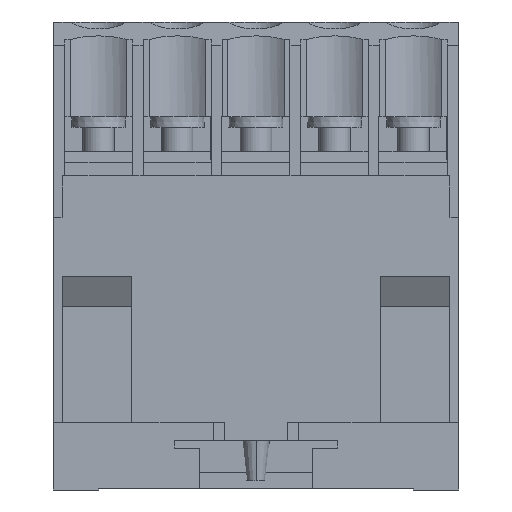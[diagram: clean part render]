
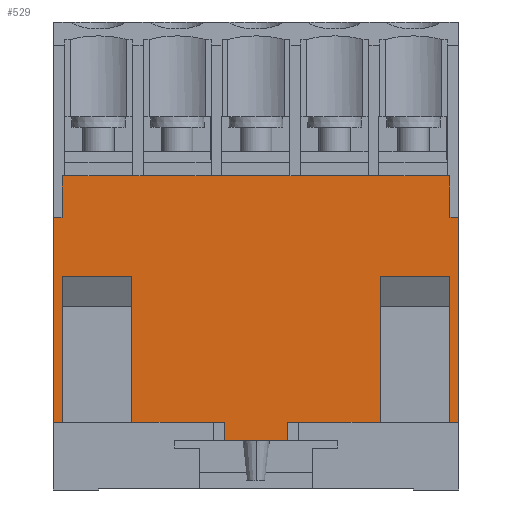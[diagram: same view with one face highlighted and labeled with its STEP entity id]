
A CAD part, front view. The second image highlights one B-rep face of the part: STEP entity #529.
In plain terms, the highlighted planar face has unit normal (0, -1, 0).
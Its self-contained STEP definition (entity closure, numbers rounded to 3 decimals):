
#529 = ADVANCED_FACE( '', ( #1510 ), #1511, .T. );
#1510 = FACE_OUTER_BOUND( '', #2525, .T. );
#1511 = PLANE( '', #2526 );
#2525 = EDGE_LOOP( '', ( #6571, #6572, #6573, #6574, #6575, #6576, #6577, #6578, #6579, #6580, #6581, #6582, #6583, #6584, #6585, #6586, #6587, #6588, #6589, #6590 ) );
#2526 = AXIS2_PLACEMENT_3D( '', #6591, #6592, #6593 );
#6571 = ORIENTED_EDGE( '', *, *, #8235, .T. );
#6572 = ORIENTED_EDGE( '', *, *, #8229, .T. );
#6573 = ORIENTED_EDGE( '', *, *, #8234, .T. );
#6574 = ORIENTED_EDGE( '', *, *, #8216, .F. );
#6575 = ORIENTED_EDGE( '', *, *, #8236, .F. );
#6576 = ORIENTED_EDGE( '', *, *, #8237, .T. );
#6577 = ORIENTED_EDGE( '', *, *, #8238, .T. );
#6578 = ORIENTED_EDGE( '', *, *, #7876, .T. );
#6579 = ORIENTED_EDGE( '', *, *, #8239, .F. );
#6580 = ORIENTED_EDGE( '', *, *, #8240, .T. );
#6581 = ORIENTED_EDGE( '', *, *, #8241, .T. );
#6582 = ORIENTED_EDGE( '', *, *, #8242, .F. );
#6583 = ORIENTED_EDGE( '', *, *, #8243, .T. );
#6584 = ORIENTED_EDGE( '', *, *, #8244, .T. );
#6585 = ORIENTED_EDGE( '', *, *, #8245, .T. );
#6586 = ORIENTED_EDGE( '', *, *, #8246, .F. );
#6587 = ORIENTED_EDGE( '', *, *, #8201, .T. );
#6588 = ORIENTED_EDGE( '', *, *, #7975, .F. );
#6589 = ORIENTED_EDGE( '', *, *, #8213, .F. );
#6590 = ORIENTED_EDGE( '', *, *, #8220, .F. );
#6591 = CARTESIAN_POINT( '', ( 45., -23., 24.8 ) );
#6592 = DIRECTION( '', ( 0., -1., 0. ) );
#6593 = DIRECTION( '', ( 0., 0., 1. ) );
#7876 = EDGE_CURVE( '', #9972, #9970, #9973, .T. );
#7975 = EDGE_CURVE( '', #10140, #10142, #10143, .T. );
#8201 = EDGE_CURVE( '', #10516, #10142, #10517, .T. );
#8213 = EDGE_CURVE( '', #10533, #10140, #10535, .T. );
#8216 = EDGE_CURVE( '', #10538, #10540, #10541, .T. );
#8220 = EDGE_CURVE( '', #10546, #10533, #10548, .T. );
#8229 = EDGE_CURVE( '', #10561, #10558, #10562, .T. );
#8234 = EDGE_CURVE( '', #10558, #10540, #10568, .T. );
#8235 = EDGE_CURVE( '', #10546, #10561, #10569, .T. );
#8236 = EDGE_CURVE( '', #10570, #10538, #10571, .T. );
#8237 = EDGE_CURVE( '', #10570, #10572, #10573, .T. );
#8238 = EDGE_CURVE( '', #10572, #9972, #10574, .T. );
#8239 = EDGE_CURVE( '', #10575, #9970, #10576, .T. );
#8240 = EDGE_CURVE( '', #10575, #10577, #10578, .T. );
#8241 = EDGE_CURVE( '', #10577, #10579, #10580, .T. );
#8242 = EDGE_CURVE( '', #10581, #10579, #10582, .T. );
#8243 = EDGE_CURVE( '', #10581, #10583, #10584, .T. );
#8244 = EDGE_CURVE( '', #10583, #10585, #10586, .T. );
#8245 = EDGE_CURVE( '', #10585, #10587, #10588, .T. );
#8246 = EDGE_CURVE( '', #10516, #10587, #10589, .T. );
#9970 = VERTEX_POINT( '', #13124 );
#9972 = VERTEX_POINT( '', #13127 );
#9973 = LINE( '', #13128, #13129 );
#10140 = VERTEX_POINT( '', #13398 );
#10142 = VERTEX_POINT( '', #13401 );
#10143 = LINE( '', #13402, #13403 );
#10516 = VERTEX_POINT( '', #13993 );
#10517 = LINE( '', #13994, #13995 );
#10533 = VERTEX_POINT( '', #14021 );
#10535 = LINE( '', #14024, #14025 );
#10538 = VERTEX_POINT( '', #14029 );
#10540 = VERTEX_POINT( '', #14032 );
#10541 = LINE( '', #14033, #14034 );
#10546 = VERTEX_POINT( '', #14041 );
#10548 = LINE( '', #14044, #14045 );
#10558 = VERTEX_POINT( '', #14062 );
#10561 = VERTEX_POINT( '', #14066 );
#10562 = LINE( '', #14067, #14068 );
#10568 = LINE( '', #14078, #14079 );
#10569 = LINE( '', #14080, #14081 );
#10570 = VERTEX_POINT( '', #14082 );
#10571 = LINE( '', #14083, #14084 );
#10572 = VERTEX_POINT( '', #14085 );
#10573 = LINE( '', #14086, #14087 );
#10574 = LINE( '', #14088, #14089 );
#10575 = VERTEX_POINT( '', #14090 );
#10576 = LINE( '', #14091, #14092 );
#10577 = VERTEX_POINT( '', #14093 );
#10578 = LINE( '', #14094, #14095 );
#10579 = VERTEX_POINT( '', #14096 );
#10580 = LINE( '', #14097, #14098 );
#10581 = VERTEX_POINT( '', #14099 );
#10582 = LINE( '', #14100, #14101 );
#10583 = VERTEX_POINT( '', #14102 );
#10584 = LINE( '', #14103, #14104 );
#10585 = VERTEX_POINT( '', #14105 );
#10586 = LINE( '', #14106, #14107 );
#10587 = VERTEX_POINT( '', #14108 );
#10588 = LINE( '', #14109, #14110 );
#10589 = LINE( '', #14111, #14112 );
#13124 = CARTESIAN_POINT( '', ( 0.95, -23., 29.4 ) );
#13127 = CARTESIAN_POINT( '', ( 44.05, -23., 29.4 ) );
#13128 = CARTESIAN_POINT( '', ( 44.05, -23., 29.4 ) );
#13129 = VECTOR( '', #15637, 1. );
#13398 = CARTESIAN_POINT( '', ( 26., -23., 0. ) );
#13401 = CARTESIAN_POINT( '', ( 19., -23., 0. ) );
#13402 = CARTESIAN_POINT( '', ( 35.5, -23., 0. ) );
#13403 = VECTOR( '', #15741, 1. );
#13993 = CARTESIAN_POINT( '', ( 19., -23., 2. ) );
#13994 = CARTESIAN_POINT( '', ( 19., -23., 2. ) );
#13995 = VECTOR( '', #15983, 1. );
#14021 = CARTESIAN_POINT( '', ( 26., -23., 2. ) );
#14024 = CARTESIAN_POINT( '', ( 26., -23., 2. ) );
#14025 = VECTOR( '', #15995, 1. );
#14029 = CARTESIAN_POINT( '', ( 45., -23., 2. ) );
#14032 = CARTESIAN_POINT( '', ( 44.05, -23., 2. ) );
#14033 = CARTESIAN_POINT( '', ( 45., -23., 2. ) );
#14034 = VECTOR( '', #15998, 1. );
#14041 = CARTESIAN_POINT( '', ( 36.3, -23., 2. ) );
#14044 = CARTESIAN_POINT( '', ( 45., -23., 2. ) );
#14045 = VECTOR( '', #16002, 1. );
#14062 = CARTESIAN_POINT( '', ( 44.05, -23., 18.265 ) );
#14066 = CARTESIAN_POINT( '', ( 36.3, -23., 18.265 ) );
#14067 = CARTESIAN_POINT( '', ( 40.65, -23., 18.265 ) );
#14068 = VECTOR( '', #16011, 1. );
#14078 = CARTESIAN_POINT( '', ( 44.05, -23., 12.4 ) );
#14079 = VECTOR( '', #16016, 1. );
#14080 = CARTESIAN_POINT( '', ( 36.3, -23., 12.4 ) );
#14081 = VECTOR( '', #16017, 1. );
#14082 = CARTESIAN_POINT( '', ( 45., -23., 24.8 ) );
#14083 = CARTESIAN_POINT( '', ( 45., -23., 24.8 ) );
#14084 = VECTOR( '', #16018, 1. );
#14085 = CARTESIAN_POINT( '', ( 44.05, -23., 24.8 ) );
#14086 = CARTESIAN_POINT( '', ( 45., -23., 24.8 ) );
#14087 = VECTOR( '', #16019, 1. );
#14088 = CARTESIAN_POINT( '', ( 44.05, -23., 19.4 ) );
#14089 = VECTOR( '', #16020, 1. );
#14090 = CARTESIAN_POINT( '', ( 0.95, -23., 24.8 ) );
#14091 = CARTESIAN_POINT( '', ( 0.95, -23., 19.4 ) );
#14092 = VECTOR( '', #16021, 1. );
#14093 = CARTESIAN_POINT( '', ( 0., -23., 24.8 ) );
#14094 = CARTESIAN_POINT( '', ( 45., -23., 24.8 ) );
#14095 = VECTOR( '', #16022, 1. );
#14096 = CARTESIAN_POINT( '', ( 0., -23., 2. ) );
#14097 = CARTESIAN_POINT( '', ( 0., -23., 24.8 ) );
#14098 = VECTOR( '', #16023, 1. );
#14099 = CARTESIAN_POINT( '', ( 0.95, -23., 2. ) );
#14100 = CARTESIAN_POINT( '', ( 45., -23., 2. ) );
#14101 = VECTOR( '', #16024, 1. );
#14102 = CARTESIAN_POINT( '', ( 0.95, -23., 18.265 ) );
#14103 = CARTESIAN_POINT( '', ( 0.95, -23., 12.4 ) );
#14104 = VECTOR( '', #16025, 1. );
#14105 = CARTESIAN_POINT( '', ( 8.7, -23., 18.265 ) );
#14106 = CARTESIAN_POINT( '', ( 26.85, -23., 18.265 ) );
#14107 = VECTOR( '', #16026, 1. );
#14108 = CARTESIAN_POINT( '', ( 8.7, -23., 2. ) );
#14109 = CARTESIAN_POINT( '', ( 8.7, -23., 12.4 ) );
#14110 = VECTOR( '', #16027, 1. );
#14111 = CARTESIAN_POINT( '', ( 45., -23., 2. ) );
#14112 = VECTOR( '', #16028, 1. );
#15637 = DIRECTION( '', ( -1., 0., 0. ) );
#15741 = DIRECTION( '', ( -1., 0., 0. ) );
#15983 = DIRECTION( '', ( 0., 0., -1. ) );
#15995 = DIRECTION( '', ( 0., 0., -1. ) );
#15998 = DIRECTION( '', ( -1., 0., 0. ) );
#16002 = DIRECTION( '', ( -1., 0., 0. ) );
#16011 = DIRECTION( '', ( 1., 0., 0. ) );
#16016 = DIRECTION( '', ( 0., 0., -1. ) );
#16017 = DIRECTION( '', ( 0., 0., 1. ) );
#16018 = DIRECTION( '', ( 0., 0., -1. ) );
#16019 = DIRECTION( '', ( -1., 0., 0. ) );
#16020 = DIRECTION( '', ( 0., 0., 1. ) );
#16021 = DIRECTION( '', ( 0., 0., 1. ) );
#16022 = DIRECTION( '', ( -1., 0., 0. ) );
#16023 = DIRECTION( '', ( 0., 0., -1. ) );
#16024 = DIRECTION( '', ( -1., 0., 0. ) );
#16025 = DIRECTION( '', ( 0., 0., 1. ) );
#16026 = DIRECTION( '', ( 1., 0., 0. ) );
#16027 = DIRECTION( '', ( 0., 0., -1. ) );
#16028 = DIRECTION( '', ( -1., 0., 0. ) );
